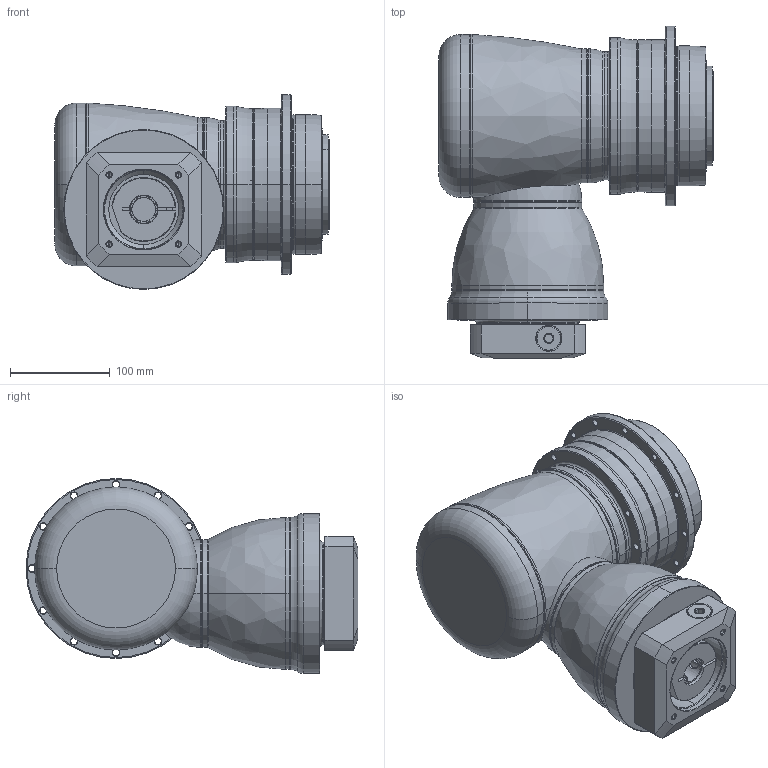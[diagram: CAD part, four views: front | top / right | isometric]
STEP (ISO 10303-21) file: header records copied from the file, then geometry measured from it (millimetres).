
FILE_DESCRIPTION((''),'2;1');
FILE_NAME('AHK140_2ST_24-P0409500101_ASM','2016-10-07T',('d01943'),(''),'PRO/ENGINEER BY PARAMETRIC TECHNOLOGY CORPORATION, 2008410','PRO/ENGINEER BY PARAMETRIC TECHNOLOGY CORPORATION, 2008410','');
FILE_SCHEMA(('CONFIG_CONTROL_DESIGN'));
Length unit declared in the file: millimetre
Products named in the file (12): P1008500002; P1802500011; P0278500003; P0359500002; P1315500001; P1007500001; P1318500001; P0503500010; P0912500201; P0409500101; 21711418017; AHK140_2ST_24-P0409500101_ASM
Assembly tree (11 placements, depth 2):
  AHK140_2ST_24-P0409500101_ASM
    P1008500002
    P1802500011
    P0278500003
    P0359500002
    P1315500001
    P1007500001
    P1318500001
    P0503500010
    P0912500201
    P0409500101
    21711418017
Bounding box: 274.5 x 332 x 195 mm (x, y, z)
Volume: 5197726.7 mm3; surface area: 630095.1 mm2
Topology: 12 solids, 12 shells, 853 faces, 1901 edges, 1099 vertices
Faces by surface type: cylinder 307, cone 272, torus 124, plane 123, bspline 25, sphere 2
Entity records: 28681 total; most frequent: CARTESIAN_POINT 9246, DIRECTION 4483, ORIENTED_EDGE 3678, AXIS2_PLACEMENT_3D 1917, EDGE_CURVE 1839, VERTEX_POINT 1099, CIRCLE 1066, EDGE_LOOP 1004
